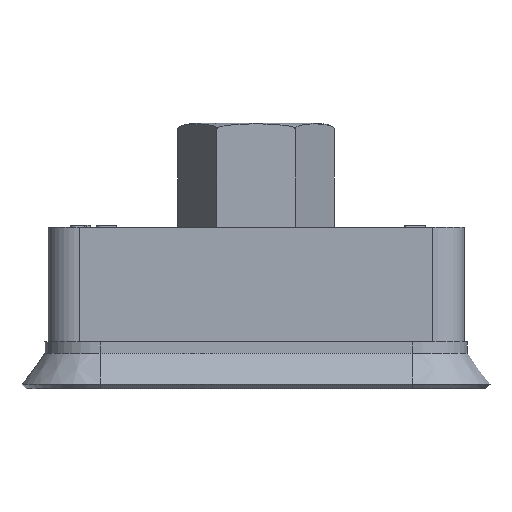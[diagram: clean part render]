
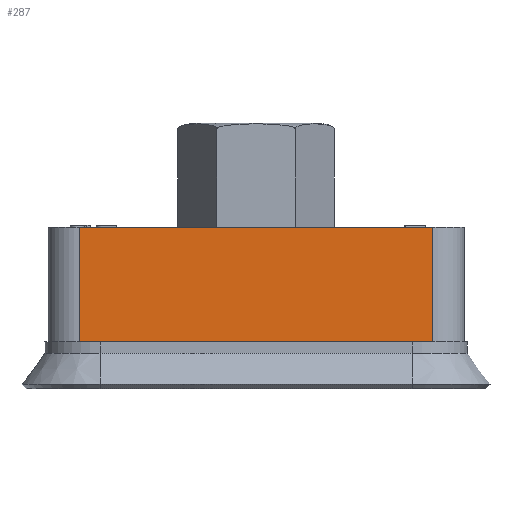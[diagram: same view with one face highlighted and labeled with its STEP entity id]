
A CAD part, front view. The second image highlights one B-rep face of the part: STEP entity #287.
In plain terms, the highlighted planar face has unit normal (0, -1, 0).
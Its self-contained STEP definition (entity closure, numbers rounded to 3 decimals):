
#287 = ADVANCED_FACE( '', ( #719 ), #720, .F. );
#719 = FACE_OUTER_BOUND( '', #1350, .T. );
#720 = PLANE( '', #1351 );
#1350 = EDGE_LOOP( '', ( #2258, #2259, #2260, #2261 ) );
#1351 = AXIS2_PLACEMENT_3D( '', #2262, #2263, #2264 );
#2258 = ORIENTED_EDGE( '', *, *, #4051, .T. );
#2259 = ORIENTED_EDGE( '', *, *, #4052, .F. );
#2260 = ORIENTED_EDGE( '', *, *, #4053, .F. );
#2261 = ORIENTED_EDGE( '', *, *, #4054, .T. );
#2262 = CARTESIAN_POINT( '', ( -17., -7., -0.9 ) );
#2263 = DIRECTION( '', ( 0., 1., 0. ) );
#2264 = DIRECTION( '', ( 0., 0., 1. ) );
#4051 = EDGE_CURVE( '', #4850, #4851, #4852, .T. );
#4052 = EDGE_CURVE( '', #4853, #4851, #4854, .T. );
#4053 = EDGE_CURVE( '', #4855, #4853, #4856, .T. );
#4054 = EDGE_CURVE( '', #4855, #4850, #4857, .T. );
#4850 = VERTEX_POINT( '', #6136 );
#4851 = VERTEX_POINT( '', #6137 );
#4852 = LINE( '', #6138, #6139 );
#4853 = VERTEX_POINT( '', #6140 );
#4854 = LINE( '', #6141, #6142 );
#4855 = VERTEX_POINT( '', #6143 );
#4856 = LINE( '', #6144, #6145 );
#4857 = LINE( '', #6146, #6147 );
#6136 = CARTESIAN_POINT( '', ( -17., -7., -11.9 ) );
#6137 = CARTESIAN_POINT( '', ( 17., -7., -11.9 ) );
#6138 = CARTESIAN_POINT( '', ( -17., -7., -11.9 ) );
#6139 = VECTOR( '', #7638, 1000. );
#6140 = CARTESIAN_POINT( '', ( 17., -7., -0.9 ) );
#6141 = CARTESIAN_POINT( '', ( 17., -7., -0.9 ) );
#6142 = VECTOR( '', #7639, 1000. );
#6143 = CARTESIAN_POINT( '', ( -17., -7., -0.9 ) );
#6144 = CARTESIAN_POINT( '', ( -17., -7., -0.9 ) );
#6145 = VECTOR( '', #7640, 1000. );
#6146 = CARTESIAN_POINT( '', ( -17., -7., -0.9 ) );
#6147 = VECTOR( '', #7641, 1000. );
#7638 = DIRECTION( '', ( 1., 0., 0. ) );
#7639 = DIRECTION( '', ( 0., 0., -1. ) );
#7640 = DIRECTION( '', ( 1., 0., 0. ) );
#7641 = DIRECTION( '', ( 0., 0., -1. ) );
